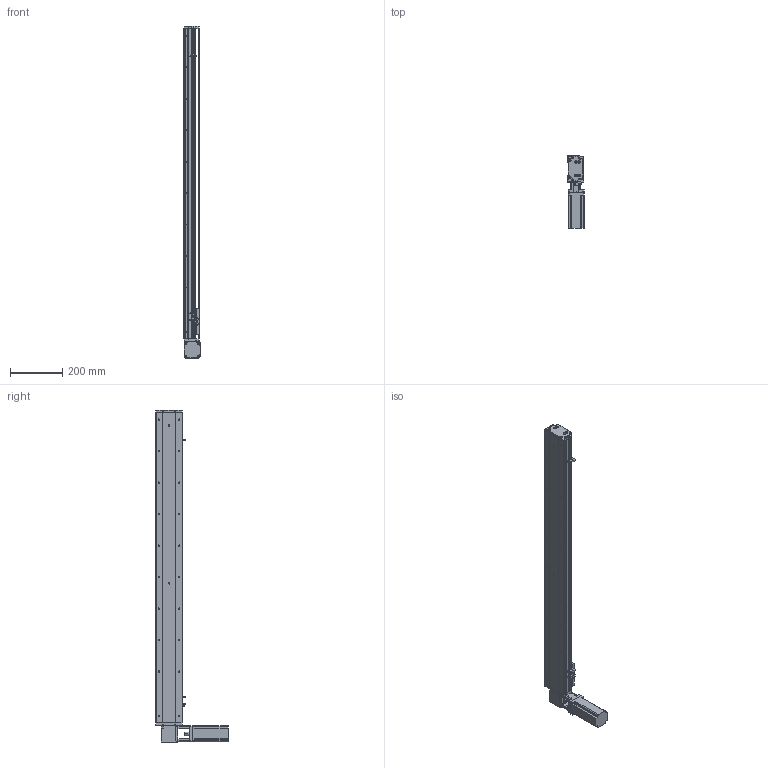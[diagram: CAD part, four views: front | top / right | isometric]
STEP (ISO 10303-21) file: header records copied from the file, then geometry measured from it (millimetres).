
FILE_DESCRIPTION (( 'STEP AP214' ), '1' );
FILE_NAME ('KSD100B-S1000-MLT-CM.STEP', '2019-10-26T05:54:12', ( '微软用户' ), ( '微软中国' ), 'SwSTEP 2.0', 'SolidWorks 2014', '' );
FILE_SCHEMA (( 'AUTOMOTIVE_DESIGN' ));
Length unit declared in the file: millimetre
Products named in the file (12): 100宽安装板同步带带电机座400W,86; 100遵鎮湛假蚾啣1 ; 100宽防尘板1000行程-同步带; U倰嫖萇EEㄜSX672; 覜茼え100遵圉猾敕; 台达ECMA－C20604AS伺服电机; 100宽马达安装板同步带右; 100宽同步带安装板半封闭; 100宽马达安装板同步带; 100遵傷啣肮祭湍; 100宽底板半封闭同步带1000行程; KSD100B-S1000-MLT-CM
Assembly tree (13 placements, depth 2):
  KSD100B-S1000-MLT-CM
    100宽底板半封闭同步带1000行程
    100遵傷啣肮祭湍
    100宽马达安装板同步带
    100宽同步带安装板半封闭
    100宽马达安装板同步带右
    台达ECMA－C20604AS伺服电机
    覜茼え100遵圉猾敕
    U倰嫖萇EEㄜSX672  x3
    100宽防尘板1000行程-同步带
    100遵鎮湛假蚾啣1 
    100宽安装板同步带带电机座400W,86
Bounding box: 61 x 275 x 1265 mm (x, y, z)
Volume: 2848848.9 mm3; surface area: 927200.4 mm2
Topology: 14 solids, 14 shells, 1456 faces, 4089 edges, 2597 vertices
Faces by surface type: cylinder 742, plane 575, cone 139
Entity records: 50989 total; most frequent: CARTESIAN_POINT 10234, DIRECTION 7109, ORIENTED_EDGE 6806, EDGE_CURVE 3403, AXIS2_PLACEMENT_3D 2618, VERTEX_POINT 2221, LINE 1873, VECTOR 1873
